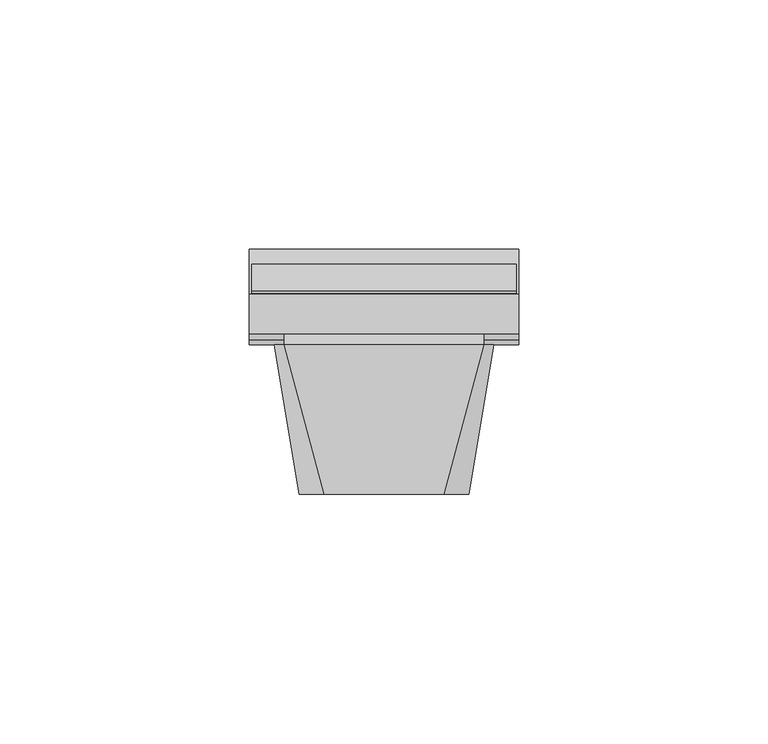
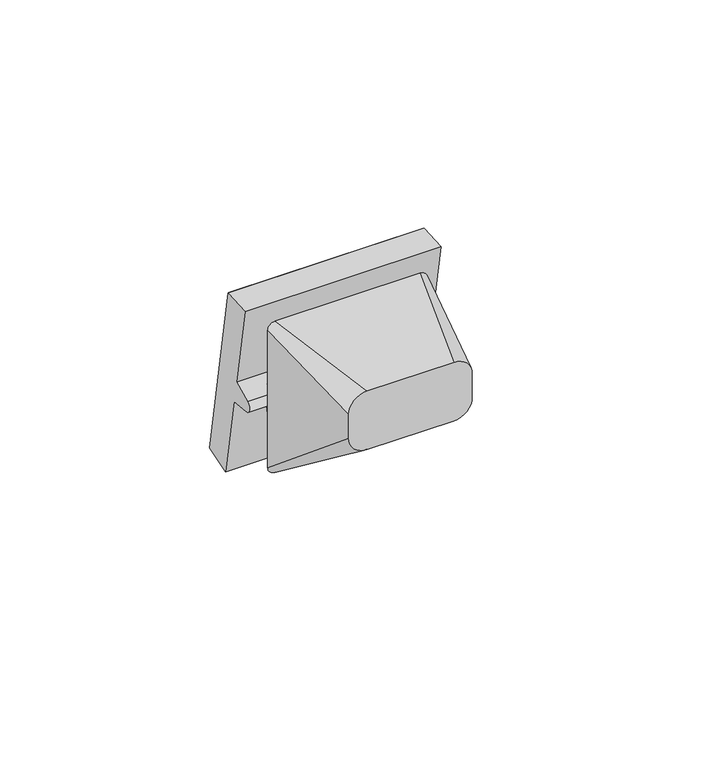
"""IFC4 building model written with IfcOpenShell, lengths in millimetres: proxy geometry, IEK_Brite_Механизм выключателя : Зв_ВС10-1-9-БрА."""

from ifc_helpers import new_model, si_unit, point, frame, frame_2d, origin, place, context, project, spatial, polyline, circle_curve, trimmed, segment, composite_curve, outline, extrude, source, transform, mapped, element, save
from ifc_brep_helpers import plane_surface, spline_surface, advanced_brep


def electrical_fixtures_0bab7950(model_context):
    return source(origin(), model_context, "Body", "SolidModel", [
        extrude(outline(polyline([(0.0, -53.0), (0.0, 0.0), (0.5, 0.0), (0.5, -53.0), (0.0, -53.0)])), frame((26.5, 16.0957091, -4.0660988), z_axis=(0.0, -0.17364817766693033, 0.9848077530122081), x_axis=(0.0, -0.9848077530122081, -0.17364817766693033)), (0.0, 0.0, 1.0), 30.6229743),
        advanced_brep(
        [(-12.0, -30.0, 17.0), (-17.0, -30.0, 12.0), (-17.0, -30.0, 5.0), (-12.0, -30.0, 0.0), (12.0, -30.0, 0.0), (17.0, -30.0, 5.0), (17.0, -30.0, 12.0), (12.0, -30.0, 17.0), (20.0, 0.0, 22.0), (22.0, 0.0, 20.0), (22.0, 0.0, -20.0), (20.0, 0.0, -22.0), (-20.0, 0.0, -22.0), (-22.0, 0.0, -20.0), (-22.0, 0.0, 20.0), (-20.0, 0.0, 22.0), (20.0, 4.4942733, -3.0892494), (-20.0, 4.4942733, -3.0892494)],
        [
            (0, 1, circle_curve(frame((-12.0, -30.0, 12.0), z_axis=(0.0, -1.0, 0.0), x_axis=(1.0, 0.0, 0.0)), 5.0)),
            (1, 2),
            (2, 3, circle_curve(frame((-12.0, -30.0, 5.0), z_axis=(0.0, -1.0, 0.0), x_axis=(1.0, 0.0, 0.0)), 5.0)),
            (3, 4),
            (4, 5, circle_curve(frame((12.0, -30.0, 5.0), z_axis=(0.0, -1.0, 0.0), x_axis=(1.0, 0.0, 0.0)), 5.0)),
            (5, 6),
            (6, 7, circle_curve(frame((12.0, -30.0, 12.0), z_axis=(0.0, -1.0, 0.0), x_axis=(1.0, 0.0, 0.0)), 5.0)),
            (7, 0),
            (8, 9, circle_curve(frame((20.0, 0.0, 20.0), z_axis=(0.0, 1.0, 0.0), x_axis=(1.0, 0.0, 0.0)), 2.0)),
            (9, 10),
            (10, 11, circle_curve(frame((20.0, 0.0, -20.0), z_axis=(0.0, 1.0, 0.0), x_axis=(1.0, 0.0, 0.0)), 2.0)),
            (11, 8),
            (12, 13, circle_curve(frame((-20.0, 0.0, -20.0), z_axis=(0.0, 1.0, 0.0), x_axis=(1.0, 0.0, 0.0)), 2.0)),
            (13, 14),
            (14, 15, circle_curve(frame((-20.0, 0.0, 20.0), z_axis=(0.0, 1.0, 0.0), x_axis=(1.0, 0.0, 0.0)), 2.0)),
            (15, 12),
            (7, 8),
            (8, 15),
            (15, 0),
            (6, 9),
            (5, 10),
            (4, 11),
            (3, 12),
            (12, 11),
            (2, 13),
            (1, 14),
            (11, 16),
            (16, 8),
            (15, 17),
            (17, 12),
            (17, 16),
        ],
        [
            plane_surface(frame((0.0, -30.0, 8.5), z_axis=(0.0, -1.0, 0.0), x_axis=(-1.0, 0.0, 0.0))),
            plane_surface(frame((0.0, 0.0, 0.0), z_axis=(0.0, 1.0, 0.0), x_axis=(-1.0, 0.0, 0.0))),
            plane_surface(frame((0.0, 0.0, 22.0), z_axis=(0.0, -0.16439898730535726, 0.9863939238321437), x_axis=(-1.0, 0.0, 0.0))),
            spline_surface(2, 1, [[(22.0, 0.0, 20.0), (17.0, -30.0, 12.0)], [(22.0, 0.0, 22.0), (17.0, -30.0, 17.0)], [(20.0, 0.0, 22.0), (12.0, -30.0, 17.0)]], [3, 3], [2, 2], [0.0, 1.0], [0.0, 1.0], weights=[[1.0, 1.0], [0.7071067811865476, 0.7071067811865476], [1.0, 1.0]]),
            plane_surface(frame((22.0, 0.0, 0.0), z_axis=(0.9863939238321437, -0.1643989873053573, 0.0), x_axis=(0.0, 0.0, 1.0))),
            spline_surface(2, 1, [[(20.0, 0.0, -22.0), (12.0, -30.0, 0.0)], [(22.0, 0.0, -22.0), (17.0, -30.0, 0.0)], [(22.0, 0.0, -20.0), (17.0, -30.0, 5.0)]], [3, 3], [2, 2], [0.0, 1.0], [0.0, 1.0], weights=[[1.0, 1.0], [0.7071067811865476, 0.7071067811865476], [1.0, 1.0]]),
            plane_surface(frame((0.0, 0.0, -22.0), z_axis=(0.0, -0.591363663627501, -0.8064049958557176), x_axis=(1.0, 0.0, 0.0))),
            spline_surface(2, 1, [[(-22.0, 0.0, -20.0), (-17.0, -30.0, 5.0)], [(-22.0, 0.0, -22.0), (-17.0, -30.0, 0.0)], [(-20.0, 0.0, -22.0), (-12.0, -30.0, 0.0)]], [3, 3], [2, 2], [0.0, 1.0], [0.0, 1.0], weights=[[1.0, 1.0], [0.7071067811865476, 0.7071067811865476], [1.0, 1.0]]),
            plane_surface(frame((-22.0, 0.0, 0.0), z_axis=(-0.9863939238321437, -0.1643989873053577, 0.0), x_axis=(0.0, 0.0, -1.0))),
            spline_surface(2, 1, [[(-20.0, 0.0, 22.0), (-12.0, -30.0, 17.0)], [(-22.0, 0.0, 22.0), (-17.0, -30.0, 17.0)], [(-22.0, 0.0, 20.0), (-17.0, -30.0, 12.0)]], [3, 3], [2, 2], [0.0, 1.0], [0.0, 1.0], weights=[[1.0, 1.0], [0.7071067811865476, 0.7071067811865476], [1.0, 1.0]]),
            plane_surface(frame((20.0, 0.0, -22.0), z_axis=(1.0, 0.0, 0.0), x_axis=(0.0, 0.23121707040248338, 0.9729021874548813))),
            plane_surface(frame((-20.0, 0.0, -22.0), z_axis=(-1.0, 0.0, 0.0), x_axis=(0.0, -0.23121707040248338, -0.9729021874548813))),
            plane_surface(frame((20.0, 0.0, -22.0), z_axis=(0.0, 0.9729021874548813, -0.23121707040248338), x_axis=(-1.0, 0.0, 0.0))),
            plane_surface(frame((20.0, 4.4942733, -3.0892494), z_axis=(0.0, 0.9843320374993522, 0.17632481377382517), x_axis=(-1.0, 0.0, 0.0))),
        ],
        [
            (0, [[1, 2, 3, 4, 5, 6, 7, 8]]),
            (1, [[9, 10, 11, 12]]),
            (1, [[13, 14, 15, 16]]),
            (2, [[-8, 17, 18, 19]]),
            (3, [[-7, 20, -9, -17]]),
            (4, [[-6, 21, -10, -20]]),
            (5, [[-5, 22, -11, -21]]),
            (6, [[-4, 23, 24, -22]]),
            (7, [[-3, 25, -13, -23]]),
            (8, [[-2, 26, -14, -25]]),
            (9, [[-1, -19, -15, -26]]),
            (10, [[27, 28, -12]]),
            (11, [[29, 30, -16]]),
            (12, [[-27, -24, -30, 31]]),
            (13, [[-28, -31, -29, -18]]),
        ],
    ),
        extrude(outline(composite_curve([segment(polyline([(19.1247035, -24.1237652), (11.4236286, -26.3320129), (7.3756597, -3.3748404), (1.5972872, -2.8692983)]), True, "CONTINUOUS"), segment(trimmed(circle_curve(frame_2d((1.7530049, -1.0894363)), 1.7866608), [point((1.5972872, -2.8692983))], [point((0.9979294, 0.5298284))], False, "CARTESIAN"), True, "CONTINUOUS"), segment(polyline([(0.9979294, 0.5298284), (6.2549179, 2.9812023), (2.206949, 25.9383748), (10.1988574, 26.4972235), (19.1247035, -24.1237652)]), True, "CONTINUOUS")], self_intersect=False)), frame((-27.0, 0.0, 0.0), z_axis=(1.0, 0.0, 0.0), x_axis=(0.0, 1.0, 0.0)), (0.0, 0.0, 1.0), 54.0),
    ])


if __name__ == "__main__":
    model = new_model("IFC4")
    model_context = context("Model", 3, world=origin())
    ifc_project = project(units=[si_unit("LENGTHUNIT", "METRE", prefix="MILLI")], contexts=[model_context])
    site = spatial("IfcSite", under=ifc_project)
    building = spatial("IfcBuilding", under=site)
    placement = place(None, origin())
    electrical_fixtures_shape = electrical_fixtures_0bab7950(model_context)
    element("IfcBuildingElementProxy", 1, Name="IEK_Brite_Механизм выключателя : Зв_ВС10-1-9-БрА", ObjectType="IEK_Brite_Механизм выключателя : Зв_ВС10-1-9-БрА", at=placement, inside=building, context=model_context, shape_type="MappedRepresentation", body=[
        mapped(electrical_fixtures_shape, transform((0.0, 0.0, 0.0), x_axis=(1.0, 0.0, 0.0), y_axis=(0.0, 1.0, 0.0), z_axis=(0.0, 0.0, 1.0))),
    ])
    save(model, "model.ifc")
